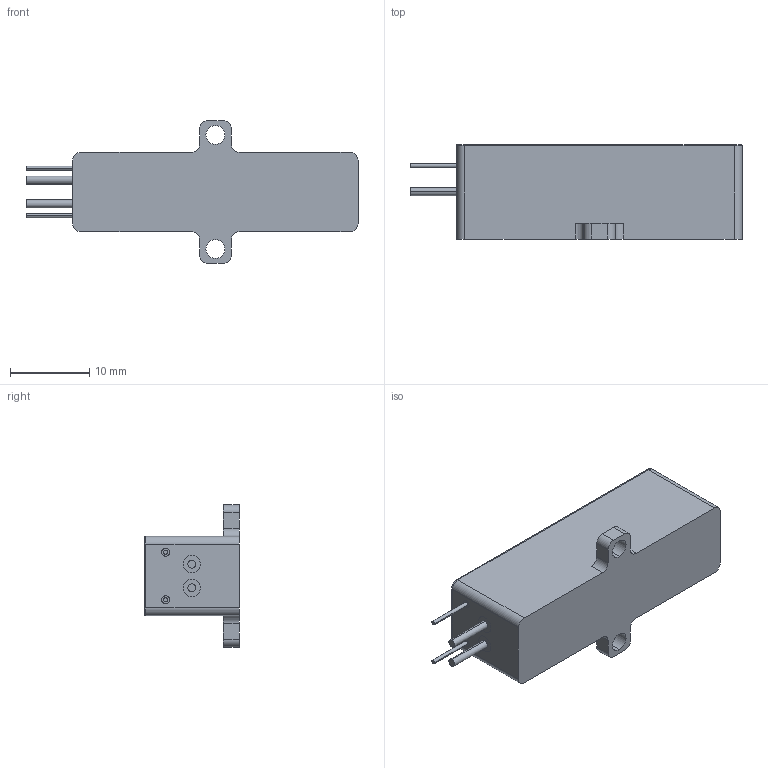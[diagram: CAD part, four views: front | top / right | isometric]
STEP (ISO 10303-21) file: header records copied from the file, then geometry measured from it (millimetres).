
FILE_DESCRIPTION (( 'STEP AP203' ), '1' );
FILE_NAME ('E4F10P俋倛.STEP', '2024-09-18T06:52:31', ( '' ), ( '' ), 'SwSTEP 2.0', 'SolidWorks 2022', '' );
FILE_SCHEMA (( 'CONFIG_CONTROL_DESIGN' ));
Length unit declared in the file: millimetre
Products named in the file (7): 波珠1; M35-PD组件; 波珠2; E4F10P外形; M21盖板; 引线针1; 引线2
Assembly tree (10 placements, depth 2):
  E4F10P外形
    M35-PD组件
    波珠1  x2
    波珠2  x2
    引线针1  x2
    引线2  x2
    M21盖板
Bounding box: 41.9 x 11.95 x 18 mm (x, y, z)
Volume: 4371.1 mm3; surface area: 2826.1 mm2
Topology: 10 solids, 10 shells, 107 faces, 244 edges, 164 vertices
Faces by surface type: cylinder 60, plane 47
Entity records: 3471 total; most frequent: DIRECTION 504, CARTESIAN_POINT 466, ORIENTED_EDGE 416, EDGE_CURVE 208, AXIS2_PLACEMENT_3D 198, VERTEX_POINT 140, LINE 108, VECTOR 108
